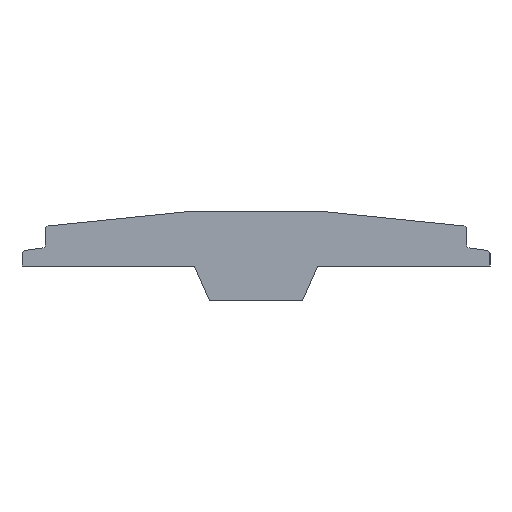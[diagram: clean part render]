
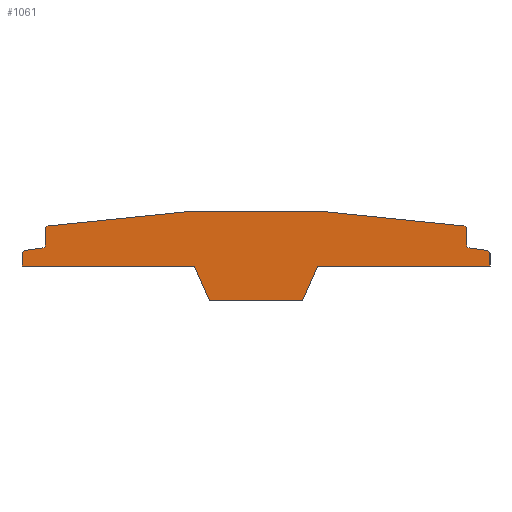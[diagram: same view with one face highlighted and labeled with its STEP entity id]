
A CAD part, left-side view. The second image highlights one B-rep face of the part: STEP entity #1061.
In plain terms, the highlighted planar face has unit normal (-1, 0, 0).
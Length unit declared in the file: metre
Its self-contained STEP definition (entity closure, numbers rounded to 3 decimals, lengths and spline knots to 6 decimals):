
#136=CARTESIAN_POINT(' ',(-1.,-0.0137,0.004449));
#141=DIRECTION(' ',(-1.,0.,-0.));
#146=DIRECTION(' ',(0.,-1.,0.));
#151=AXIS2_PLACEMENT_3D(' ',#136,#141,#146);
#156=CIRCLE('',#151,0.0002);
#161=CARTESIAN_POINT(' ',(-1.,-0.0139,0.004449));
#162=VERTEX_POINT(' ',#161);
#166=CARTESIAN_POINT(' ',(-1.,-0.013731,0.004646));
#167=VERTEX_POINT(' ',#166);
#171=EDGE_CURVE(' ',#162,#167,#156,.T.);
#401=DIRECTION(' ',(-1.,0.,0.));
#406=CARTESIAN_POINT(' ',(-1.,0.01545,-0.00026));
#411=DIRECTION(' ',(0.,-1.,0.));
#416=AXIS2_PLACEMENT_3D(' ',#406,#401,#411);
#421=PLANE('',#416);
#426=ORIENTED_EDGE(' ',*,*,#171,.T.);
#431=CARTESIAN_POINT(' ',(-1.,0.,-0.0843));
#436=DIRECTION(' ',(-1.,0.,-0.));
#441=DIRECTION(' ',(0.,-0.153,0.988));
#446=AXIS2_PLACEMENT_3D(' ',#431,#436,#441);
#451=CIRCLE('',#446,0.09);
#456=CARTESIAN_POINT(' ',(-1.,0.013731,0.004646));
#457=VERTEX_POINT(' ',#456);
#461=EDGE_CURVE(' ',#167,#457,#451,.T.);
#466=ORIENTED_EDGE(' ',*,*,#461,.T.);
#471=CARTESIAN_POINT(' ',(-1.,0.013701,0.00445));
#476=DIRECTION(' ',(-1.,-0.,-0.));
#481=DIRECTION(' ',(0.,0.148,0.989));
#486=AXIS2_PLACEMENT_3D(' ',#471,#476,#481);
#491=CIRCLE('',#486,0.000199);
#496=CARTESIAN_POINT(' ',(-1.,0.0139,0.004449));
#497=VERTEX_POINT(' ',#496);
#501=EDGE_CURVE(' ',#457,#497,#491,.T.);
#506=ORIENTED_EDGE(' ',*,*,#501,.T.);
#511=CARTESIAN_POINT(' ',(-1.,0.0139,0.004449));
#516=DIRECTION(' ',(0.,0.,-1.));
#521=VECTOR(' ',#516,1.);
#526=LINE('',#511,#521);
#531=CARTESIAN_POINT(' ',(-1.,0.0139,0.003392));
#532=VERTEX_POINT(' ',#531);
#536=EDGE_CURVE(' ',#497,#532,#526,.T.);
#541=ORIENTED_EDGE(' ',*,*,#536,.T.);
#546=CARTESIAN_POINT(' ',(-1.,0.0141,0.003392));
#551=DIRECTION(' ',(1.,-0.,-0.));
#556=DIRECTION(' ',(0.,-1.,0.));
#561=AXIS2_PLACEMENT_3D(' ',#546,#551,#556);
#566=CIRCLE('',#561,0.0002);
#571=CARTESIAN_POINT(' ',(-1.,0.014072,0.003194));
#572=VERTEX_POINT(' ',#571);
#576=EDGE_CURVE(' ',#532,#572,#566,.T.);
#581=ORIENTED_EDGE(' ',*,*,#576,.T.);
#586=CARTESIAN_POINT(' ',(-1.,0.014072,0.003194));
#591=DIRECTION(' ',(0.,0.99,-0.139));
#596=VECTOR(' ',#591,1.);
#601=LINE('',#586,#596);
#606=CARTESIAN_POINT(' ',(-1.,0.015278,0.003024));
#607=VERTEX_POINT(' ',#606);
#611=EDGE_CURVE(' ',#572,#607,#601,.T.);
#616=ORIENTED_EDGE(' ',*,*,#611,.T.);
#621=CARTESIAN_POINT(' ',(-1.,0.015251,0.002827));
#626=DIRECTION(' ',(-1.,-0.,-0.));
#631=DIRECTION(' ',(0.,0.134,0.991));
#636=AXIS2_PLACEMENT_3D(' ',#621,#626,#631);
#641=CIRCLE('',#636,0.000199);
#646=CARTESIAN_POINT(' ',(-1.,0.01545,0.002826));
#647=VERTEX_POINT(' ',#646);
#651=EDGE_CURVE(' ',#607,#647,#641,.T.);
#656=ORIENTED_EDGE(' ',*,*,#651,.T.);
#661=CARTESIAN_POINT(' ',(-1.,0.01545,0.002826));
#666=DIRECTION(' ',(0.,0.,-1.));
#671=VECTOR(' ',#666,1.);
#676=LINE('',#661,#671);
#681=CARTESIAN_POINT(' ',(-1.,0.01545,0.002));
#682=VERTEX_POINT(' ',#681);
#686=EDGE_CURVE(' ',#647,#682,#676,.T.);
#691=ORIENTED_EDGE(' ',*,*,#686,.T.);
#696=CARTESIAN_POINT(' ',(-1.,0.01545,0.002));
#701=DIRECTION(' ',(0.,-1.,0.));
#706=VECTOR(' ',#701,1.);
#711=LINE('',#696,#706);
#716=CARTESIAN_POINT(' ',(-1.,0.004065,0.002));
#717=VERTEX_POINT(' ',#716);
#721=EDGE_CURVE(' ',#682,#717,#711,.T.);
#726=ORIENTED_EDGE(' ',*,*,#721,.T.);
#731=CARTESIAN_POINT(' ',(-1.,0.004065,0.002));
#736=DIRECTION(' ',(0.,-0.403,-0.915));
#741=VECTOR(' ',#736,1.);
#746=LINE('',#731,#741);
#751=CARTESIAN_POINT(' ',(-1.,0.00307,-0.00026));
#752=VERTEX_POINT(' ',#751);
#756=EDGE_CURVE(' ',#717,#752,#746,.T.);
#761=ORIENTED_EDGE(' ',*,*,#756,.T.);
#766=CARTESIAN_POINT(' ',(-1.,0.00307,-0.00026));
#771=DIRECTION(' ',(0.,-1.,0.));
#776=VECTOR(' ',#771,1.);
#781=LINE('',#766,#776);
#786=CARTESIAN_POINT(' ',(-1.,-0.00307,-0.00026));
#787=VERTEX_POINT(' ',#786);
#791=EDGE_CURVE(' ',#752,#787,#781,.T.);
#796=ORIENTED_EDGE(' ',*,*,#791,.T.);
#801=CARTESIAN_POINT(' ',(-1.,-0.00307,-0.00026));
#806=DIRECTION(' ',(0.,-0.403,0.915));
#811=VECTOR(' ',#806,1.);
#816=LINE('',#801,#811);
#821=CARTESIAN_POINT(' ',(-1.,-0.004065,0.002));
#822=VERTEX_POINT(' ',#821);
#826=EDGE_CURVE(' ',#787,#822,#816,.T.);
#831=ORIENTED_EDGE(' ',*,*,#826,.T.);
#836=CARTESIAN_POINT(' ',(-1.,-0.004065,0.002));
#841=DIRECTION(' ',(0.,-1.,0.));
#846=VECTOR(' ',#841,1.);
#851=LINE('',#836,#846);
#856=CARTESIAN_POINT(' ',(-1.,-0.01545,0.002));
#857=VERTEX_POINT(' ',#856);
#861=EDGE_CURVE(' ',#822,#857,#851,.T.);
#866=ORIENTED_EDGE(' ',*,*,#861,.T.);
#871=CARTESIAN_POINT(' ',(-1.,-0.01545,0.002));
#876=DIRECTION(' ',(0.,0.,1.));
#881=VECTOR(' ',#876,1.);
#886=LINE('',#871,#881);
#891=CARTESIAN_POINT(' ',(-1.,-0.01545,0.002826));
#892=VERTEX_POINT(' ',#891);
#896=EDGE_CURVE(' ',#857,#892,#886,.T.);
#901=ORIENTED_EDGE(' ',*,*,#896,.T.);
#906=CARTESIAN_POINT(' ',(-1.,-0.01525,0.002826));
#911=DIRECTION(' ',(-1.,0.,-0.));
#916=DIRECTION(' ',(0.,-1.,0.));
#921=AXIS2_PLACEMENT_3D(' ',#906,#911,#916);
#926=CIRCLE('',#921,0.0002);
#931=CARTESIAN_POINT(' ',(-1.,-0.015278,0.003024));
#932=VERTEX_POINT(' ',#931);
#936=EDGE_CURVE(' ',#892,#932,#926,.T.);
#941=ORIENTED_EDGE(' ',*,*,#936,.T.);
#946=CARTESIAN_POINT(' ',(-1.,-0.015278,0.003024));
#951=DIRECTION(' ',(0.,0.99,0.139));
#956=VECTOR(' ',#951,1.);
#961=LINE('',#946,#956);
#966=CARTESIAN_POINT(' ',(-1.,-0.014072,0.003194));
#967=VERTEX_POINT(' ',#966);
#971=EDGE_CURVE(' ',#932,#967,#961,.T.);
#976=ORIENTED_EDGE(' ',*,*,#971,.T.);
#981=CARTESIAN_POINT(' ',(-1.,-0.014099,0.003391));
#986=DIRECTION(' ',(1.,0.,-0.));
#991=DIRECTION(' ',(0.,0.134,-0.991));
#996=AXIS2_PLACEMENT_3D(' ',#981,#986,#991);
#1001=CIRCLE('',#996,0.000199);
#1006=CARTESIAN_POINT(' ',(-1.,-0.0139,0.003392));
#1007=VERTEX_POINT(' ',#1006);
#1011=EDGE_CURVE(' ',#967,#1007,#1001,.T.);
#1016=ORIENTED_EDGE(' ',*,*,#1011,.T.);
#1021=CARTESIAN_POINT(' ',(-1.,-0.0139,0.003392));
#1026=DIRECTION(' ',(0.,0.,1.));
#1031=VECTOR(' ',#1026,1.);
#1036=LINE('',#1021,#1031);
#1041=EDGE_CURVE(' ',#1007,#162,#1036,.T.);
#1046=ORIENTED_EDGE(' ',*,*,#1041,.T.);
#1051=EDGE_LOOP(' ',(#426,#466,#506,#541,#581,#616,#656,#691,#726,#761,#796,#831,#866,#901,#941,#976,#1016,#1046));
#1056=FACE_OUTER_BOUND(' ',#1051,.T.);
#1061=ADVANCED_FACE('',(#1056),#421,.T.);
